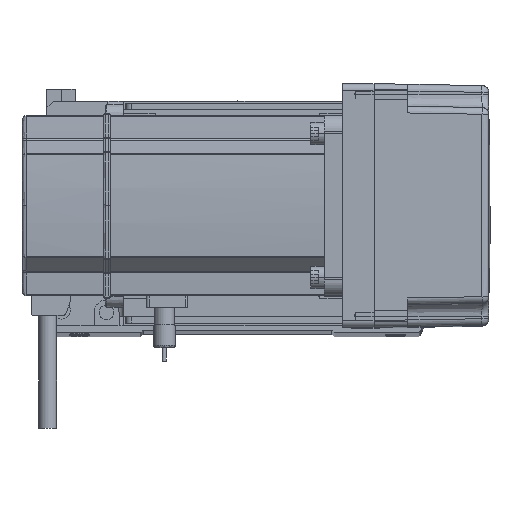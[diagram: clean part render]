
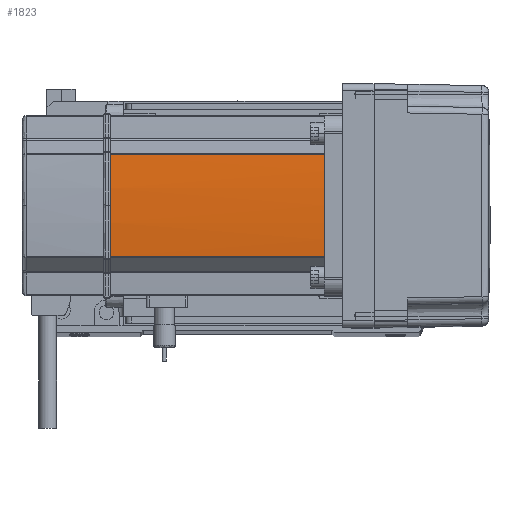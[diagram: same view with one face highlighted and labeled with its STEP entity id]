
A CAD part, top view. The second image highlights one B-rep face of the part: STEP entity #1823.
In plain terms, the highlighted cylindrical face has radius 270 mm (diameter 540 mm), a partial arc.
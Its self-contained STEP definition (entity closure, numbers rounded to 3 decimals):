
#1535 = VERTEX_POINT ( 'NONE', #50676 ) ;
#1680 = LINE ( 'NONE', #4140, #20536 ) ;
#1823 = ADVANCED_FACE ( 'NONE', ( #23236 ), #3645, .T. ) ;
#2811 = EDGE_CURVE ( 'NONE', #1535, #56783, #32894, .T. ) ;
#3645 = CYLINDRICAL_SURFACE ( 'NONE', #46195, 270. ) ;
#3983 = CARTESIAN_POINT ( 'NONE',  ( -39.042, -22.724, 39. ) ) ;
#4140 = CARTESIAN_POINT ( 'NONE',  ( -39.042, 22.724, 0. ) ) ;
#4650 = CARTESIAN_POINT ( 'NONE',  ( -39.042, -22.724, 134. ) ) ;
#7684 = LINE ( 'NONE', #40096, #9836 ) ;
#9836 = VECTOR ( 'NONE', #22034, 1000. ) ;
#11769 = DIRECTION ( 'NONE',  ( 0., 0., -1. ) ) ;
#13677 = AXIS2_PLACEMENT_3D ( 'NONE', #16247, #11769, #25215 ) ;
#15643 = VERTEX_POINT ( 'NONE', #34776 ) ;
#16247 = CARTESIAN_POINT ( 'NONE',  ( 230., 0., 134. ) ) ;
#19656 = EDGE_LOOP ( 'NONE', ( #26040, #56648, #32562, #34281, #34703 ) ) ;
#20536 = VECTOR ( 'NONE', #44839, 1000. ) ;
#22034 = DIRECTION ( 'NONE',  ( 0., 0., 1. ) ) ;
#22149 = VERTEX_POINT ( 'NONE', #4650 ) ;
#23236 = FACE_OUTER_BOUND ( 'NONE', #19656, .T. ) ;
#25215 = DIRECTION ( 'NONE',  ( 1., 0., 0. ) ) ;
#25445 = DIRECTION ( 'NONE',  ( 0., 0., -1. ) ) ;
#25732 = DIRECTION ( 'NONE',  ( 0., 0., 1. ) ) ;
#26040 = ORIENTED_EDGE ( 'NONE', *, *, #32215, .T. ) ;
#26837 = CIRCLE ( 'NONE', #47722, 270. ) ;
#29327 = AXIS2_PLACEMENT_3D ( 'NONE', #29934, #25445, #39382 ) ;
#29664 = CARTESIAN_POINT ( 'NONE',  ( 230., 0., 0. ) ) ;
#29934 = CARTESIAN_POINT ( 'NONE',  ( 230., 0., 39. ) ) ;
#30514 = CARTESIAN_POINT ( 'NONE',  ( -39.042, 22.724, 134. ) ) ;
#32215 = EDGE_CURVE ( 'NONE', #22149, #1535, #26837, .T. ) ;
#32562 = ORIENTED_EDGE ( 'NONE', *, *, #38608, .T. ) ;
#32894 = CIRCLE ( 'NONE', #13677, 270. ) ;
#34281 = ORIENTED_EDGE ( 'NONE', *, *, #45443, .F. ) ;
#34703 = ORIENTED_EDGE ( 'NONE', *, *, #40808, .T. ) ;
#34776 = CARTESIAN_POINT ( 'NONE',  ( -39.042, 22.724, 39. ) ) ;
#38095 = CIRCLE ( 'NONE', #29327, 270. ) ;
#38608 = EDGE_CURVE ( 'NONE', #56783, #15643, #1680, .T. ) ;
#38904 = DIRECTION ( 'NONE',  ( 1., 0., 0. ) ) ;
#39382 = DIRECTION ( 'NONE',  ( 1., 0., 0. ) ) ;
#40096 = CARTESIAN_POINT ( 'NONE',  ( -39.042, -22.724, 0. ) ) ;
#40808 = EDGE_CURVE ( 'NONE', #47929, #22149, #7684, .T. ) ;
#44839 = DIRECTION ( 'NONE',  ( 0., 0., -1. ) ) ;
#45443 = EDGE_CURVE ( 'NONE', #47929, #15643, #38095, .T. ) ;
#45486 = DIRECTION ( 'NONE',  ( 0., 0., -1. ) ) ;
#46195 = AXIS2_PLACEMENT_3D ( 'NONE', #29664, #25732, #38904 ) ;
#47722 = AXIS2_PLACEMENT_3D ( 'NONE', #49830, #45486, #54130 ) ;
#47929 = VERTEX_POINT ( 'NONE', #3983 ) ;
#49830 = CARTESIAN_POINT ( 'NONE',  ( 230., 0., 134. ) ) ;
#50676 = CARTESIAN_POINT ( 'NONE',  ( -40., 0., 134. ) ) ;
#54130 = DIRECTION ( 'NONE',  ( 1., 0., 0. ) ) ;
#56648 = ORIENTED_EDGE ( 'NONE', *, *, #2811, .T. ) ;
#56783 = VERTEX_POINT ( 'NONE', #30514 ) ;
